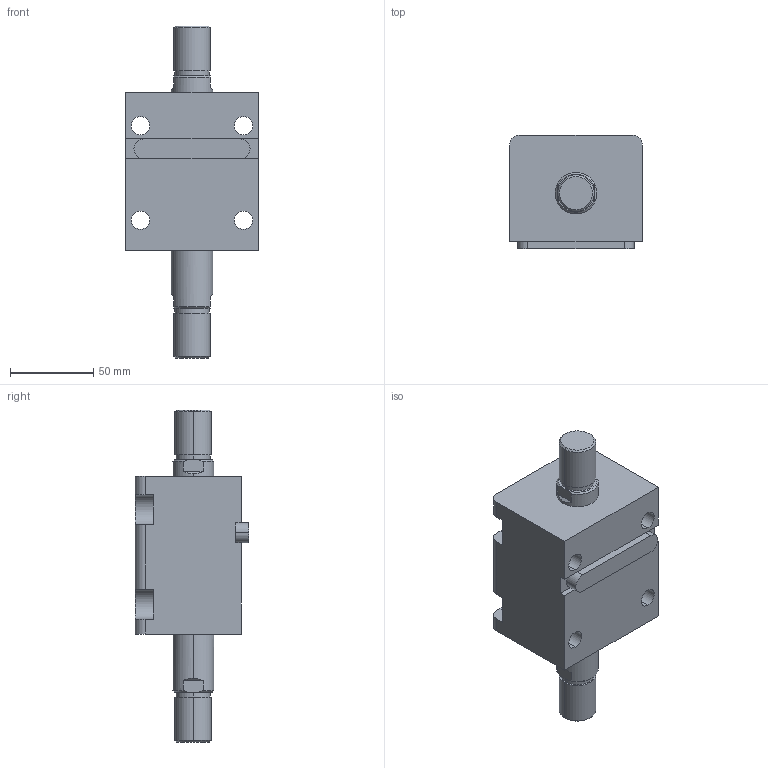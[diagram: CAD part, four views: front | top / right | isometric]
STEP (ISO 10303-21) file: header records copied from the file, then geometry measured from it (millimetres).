
FILE_DESCRIPTION (( 'STEP AP203' ), '1' );
FILE_NAME ('HTB-LW40-25W.STEP', '2019-10-09T07:54:30', ( '微软用户' ), ( '微软中国' ), 'SwSTEP 2.0', 'SolidWorks 2012', '' );
FILE_SCHEMA (( 'CONFIG_CONTROL_DESIGN' ));
Length unit declared in the file: millimetre
Products named in the file (4): HTB-LW40-25W; HTB-LW40-25掛极; HTB-LW40-25W活塞杆; HTB-LA40-瑩
Assembly tree (3 placements, depth 2):
  HTB-LW40-25W
    HTB-LW40-25掛极
    HTB-LW40-25W活塞杆
    HTB-LA40-瑩
Bounding box: 80 x 68.5 x 200 mm (x, y, z)
Volume: 478474.4 mm3; surface area: 77390.4 mm2
Topology: 3 solids, 3 shells, 113 faces, 273 edges, 178 vertices
Faces by surface type: plane 48, cylinder 45, cone 12, torus 8
Entity records: 3779 total; most frequent: CARTESIAN_POINT 622, DIRECTION 617, ORIENTED_EDGE 546, EDGE_CURVE 273, AXIS2_PLACEMENT_3D 241, VERTEX_POINT 178, EDGE_LOOP 135, VECTOR 135
